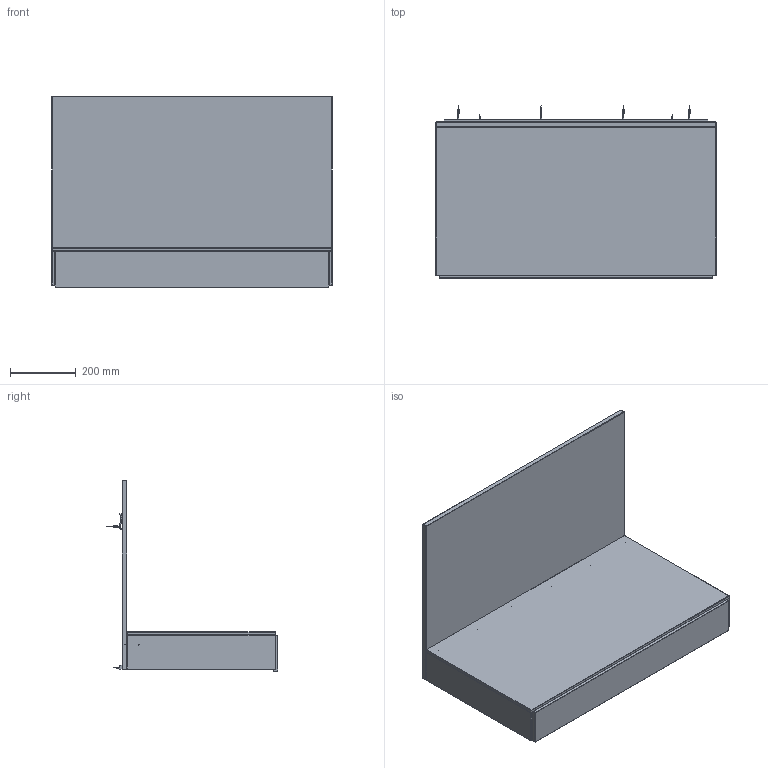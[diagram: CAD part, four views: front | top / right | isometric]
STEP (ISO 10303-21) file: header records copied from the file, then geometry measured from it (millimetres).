
FILE_DESCRIPTION(/* description */ (''),/* implementation_level */ '2;1');
FILE_NAME(/* name */ 'Tana Wall Mounted Desk',/* time_stamp */ '2023-11-14T16:53:42+01:00',/* author */ (''),/* organization */ (''),/* preprocessor_version */ 'ST-DEVELOPER v16.5',/* originating_system */ 'Rhino 7.34',/* authorisation */ '');
FILE_SCHEMA (('CONFIG_CONTROL_DESIGN'));
Products named in the file (1): Document
Bounding box: 850 x 520.99 x 578 mm (x, y, z)
Volume: 18088184 mm3; surface area: 3560628.1 mm2
Topology: 40 solids, 40 shells, 1831 faces, 5101 edges, 3388 vertices
Faces by surface type: cylinder 800, plane 659, bspline 372
Full cylindrical faces by diameter (mm): 2.318 x12, 2.864 x50, 3.409 x2, 3.477 x12, 4 x4, 5 x28, 5.409 x12, 6 x4, 7.727 x26, 8 x16, 9 x2
Entity records: 124152 total; most frequent: CARTESIAN_POINT 91223, ORIENTED_EDGE 10160, EDGE_CURVE 5080, B_SPLINE_CURVE_WITH_KNOTS 3838, VERTEX_POINT 3385, EDGE_LOOP 1989, ADVANCED_FACE 1829, FACE_OUTER_BOUND 1829
